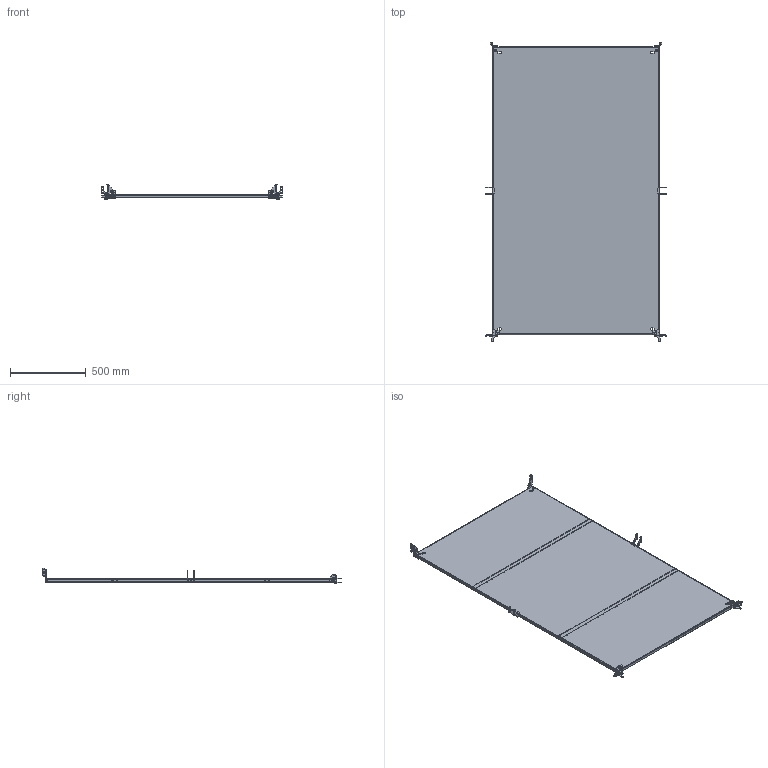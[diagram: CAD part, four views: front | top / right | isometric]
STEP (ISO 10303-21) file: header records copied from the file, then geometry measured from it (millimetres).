
FILE_DESCRIPTION (( 'STEP AP214' ), '1' );
FILE_NAME ('MSD 200.120 ÑÁ Ìîíòàæíàÿ ïàíåëü â ñáîðå.STEP', '2023-12-11T04:50:24', ( '' ), ( '' ), 'SwSTEP 2.0', 'SolidWorks 2019', '' );
FILE_SCHEMA (( 'AUTOMOTIVE_DESIGN' ));
Length unit declared in the file: millimetre
Products named in the file (13): Ãàéêà çàêëàäíàÿ êâàäðàòíàÿ îö. Ì6 1,7-2,7_ƒ ©ª  § ª« ¤­ ï ª¢ ¤à â­ ï ®æ. Œ6 2,8-3,5; MPP Y  Óñèëèòåëü ìîíòàæíîé ïàíåëè_MPU 120; MPP Y  Óñèëèòåëü ìîíòàæíîé ïàíåëè â ñáîðå_MPU 120; BMD 6 Ôèêñàòîð ìîíòàæíîé ïàíåëè; TS-010_L Âåðõíèé äåðæàòåëü ìîíòàæíîé ïàíåëè; MSD 200.120 ÑÁ Ìîíòàæíàÿ ïàíåëü â ñáîðå; TS-010_R Âåðõíèé äåðæàòåëü ìîíòàæíîé ïàíåëè; socket button head screw_iso_ISO 7380 - M6 x 12 --- 12N; TS-012 Íèæíèé äåðæàòåëü ìîíòàæíîé ïàíåëè; TS-011_L Íèæíèé äåðæàòåëü ìîíòàæíîé ïàíåëè; TS-011_R Íèæíèé äåðæàòåëü ìîíòàæíîé ïàíåëè; MSD X.Y Ìîíòàæíàÿ ïàíåëü_MSD 200.120 Œ®­â ¦­ ï ¯ ­¥«ì
Assembly tree (21 placements, depth 3):
  MSD 200.120 ÑÁ Ìîíòàæíàÿ ïàíåëü â ñáîðå
    MSD X.Y Ìîíòàæíàÿ ïàíåëü_MSD 200.120 Œ®­â ¦­ ï ¯ ­¥«ì
    TS-011_L Íèæíèé äåðæàòåëü ìîíòàæíîé ïàíåëè
    TS-011_R Íèæíèé äåðæàòåëü ìîíòàæíîé ïàíåëè
    TS-010_R Âåðõíèé äåðæàòåëü ìîíòàæíîé ïàíåëè
    TS-010_L Âåðõíèé äåðæàòåëü ìîíòàæíîé ïàíåëè
    TS-012 Íèæíèé äåðæàòåëü ìîíòàæíîé ïàíåëè  x2
    BMD 6 Ôèêñàòîð ìîíòàæíîé ïàíåëè  x2
    MPP Y  Óñèëèòåëü ìîíòàæíîé ïàíåëè â ñáîðå_MPU 120
      MPP Y  Óñèëèòåëü ìîíòàæíîé ïàíåëè_MPU 120
      Ãàéêà çàêëàäíàÿ êâàäðàòíàÿ îö. Ì6 1,7-2,7_ƒ ©ª  § ª« ¤­ ï ª¢ ¤à â­ ï ®æ. Œ6 2,8-3,5  x2
    MPP Y  Óñèëèòåëü ìîíòàæíîé ïàíåëè â ñáîðå_MPU 120
      MPP Y  Óñèëèòåëü ìîíòàæíîé ïàíåëè_MPU 120
      Ãàéêà çàêëàäíàÿ êâàäðàòíàÿ îö. Ì6 1,7-2,7_ƒ ©ª  § ª« ¤­ ï ª¢ ¤à â­ ï ®æ. Œ6 2,8-3,5  x2
    socket button head screw_iso_ISO 7380 - M6 x 12 --- 12N  x4
Bounding box: 1194 x 1971.5 x 103.7 mm (x, y, z)
Volume: 6115320.5 mm3; surface area: 4958894.3 mm2
Topology: 23 solids, 23 shells, 1878 faces, 4846 edges, 3020 vertices
Faces by surface type: plane 1130, cylinder 704, cone 20, bspline 8, torus 8, sphere 8
Entity records: 31778 total; most frequent: CARTESIAN_POINT 5823, DIRECTION 5376, ORIENTED_EDGE 5252, EDGE_CURVE 2626, AXIS2_PLACEMENT_3D 1801, LINE 1774, VECTOR 1774, VERTEX_POINT 1669
